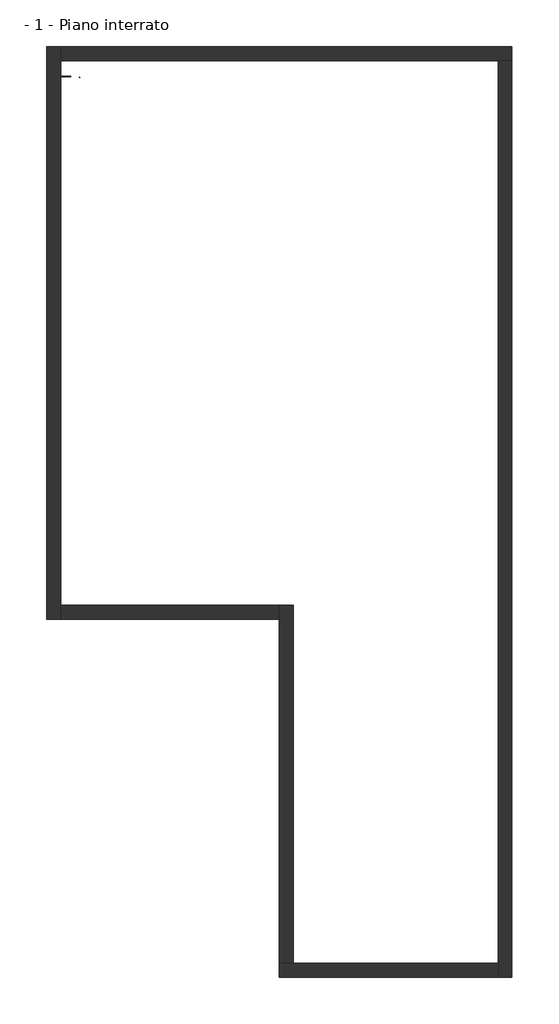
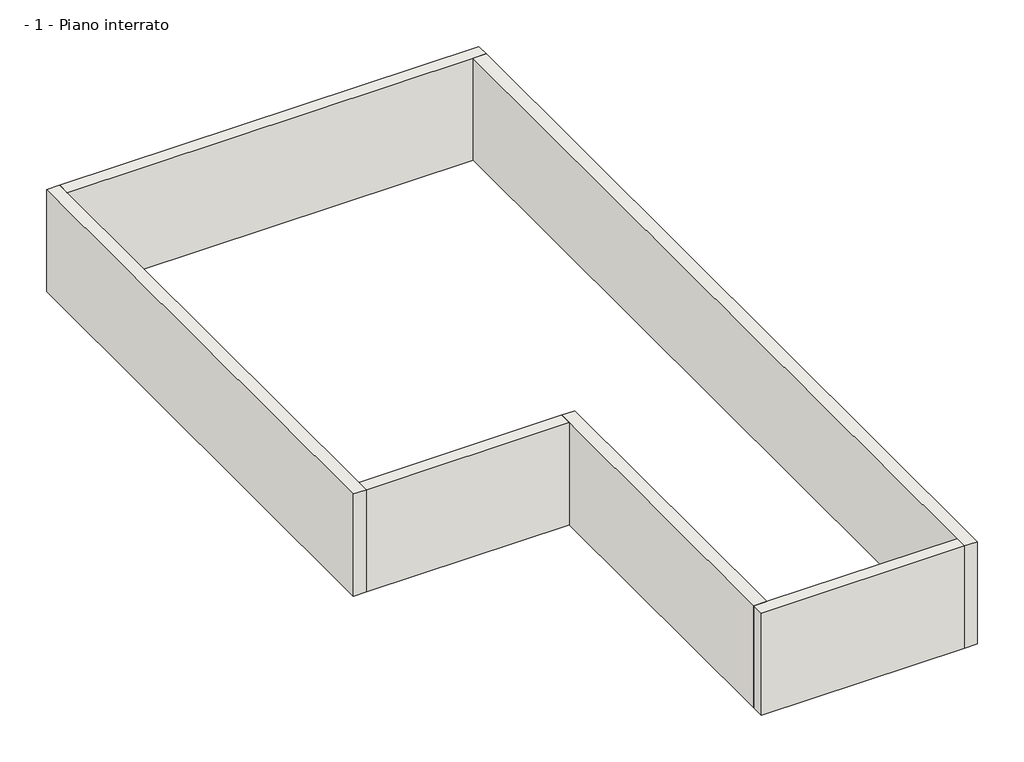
# One storey: 6 walls, 2 proxies.
"""IFC4 building model written with IfcOpenShell, lengths in millimetres."""

from ifc_helpers import new_model, si_unit, origin, place, context, project, spatial, faceted_brep, transform, mapped, element, save
from components import generic_models_3b7ed561

model = new_model("IFC4")

# Units and contexts
model_context = context("Model", 3, world=origin())
ifc_project = project(units=[si_unit("LENGTHUNIT", "METRE", prefix="MILLI")], contexts=[model_context])

# Site, building, storey
site = spatial("IfcSite", under=ifc_project)
building = spatial("IfcBuilding", under=site)
storey = spatial("IfcBuildingStorey", under=building, Name="- 1 - Piano interrato", Elevation=-2500.0)

# Proxies
placement = place(None, origin())
generic_models_shape = generic_models_3b7ed561(model_context)
element("IfcBuildingElementProxy", 1, Name="ITA-Connettori su parete verticale sigillati con AKTI-VO 201 : ITA-Connettori su parete verticale sigillati con AKTI-VO 201", ObjectType="ITA-Connettori su parete verticale sigillati con AKTI-VO 201 : ITA-Connettori su parete verticale sigillati con AKTI-VO 201", at=placement, inside=storey, context=model_context, shape_type="MappedRepresentation", body=[
    mapped(generic_models_shape, transform((-9710.8494157, 5194.5353636, -1865.9567183), x_axis=(0.0, 1.0, 0.0), y_axis=(0.0, 0.0, 1.0), z_axis=(1.0, 0.0, 0.0))),
])
element("IfcBuildingElementProxy", 2, Name="ITA-Connettori su struttura orizzontale sigillati con AKTI-VO 201 : ITA-Connettori su struttura orizzontale sigillati con AKTI-VO 201", ObjectType="ITA-Connettori su struttura orizzontale sigillati con AKTI-VO 201 : ITA-Connettori su struttura orizzontale sigillati con AKTI-VO 201", at=placement, inside=storey, context=model_context, shape_type="MappedRepresentation", body=[
    mapped(generic_models_shape, transform((-9320.8494157, 5174.5353636, -2001.0), x_axis=(1.0, 0.0, 0.0), y_axis=(0.0, 1.0, 0.0), z_axis=(0.0, 0.0, 1.0))),
])

# Walls
element("IfcWall", 3, ObjectType="Parete in muratura fuori terra", at=placement, inside=storey, context=model_context, shape_type="Brep", body=[
    faceted_brep([(-9730.8494157, -6465.4646364, -2500.0), (-9730.8494157, -6165.4646364, -2500.0), (-9730.8494157, 5534.5353636, -2500.0), (-9730.8494157, 5834.5353636, -2500.0), (-9730.8494157, 5834.5353636, 0.0), (-9730.8494157, 5534.5353636, 0.0), (-9730.8494157, -6165.4646364, 0.0), (-9730.8494157, -6465.4646364, 0.0), (-10030.8494157, -6465.4646364, -2500.0), (-10030.8494157, -6465.4646364, 0.0), (-10030.8494157, 5834.5353636, 0.0), (-10030.8494157, 5834.5353636, -2500.0)], [[[0, 1, 2, 3, 4, 5, 6, 7]], [[8, 9, 10, 11]], [[3, 2, 1, 0, 8, 11]], [[7, 6, 5, 4, 10, 9]], [[4, 3, 11, 10]], [[0, 7, 9, 8]]]),
])
element("IfcWall", 4, ObjectType="Parete in muratura fuori terra", at=placement, inside=storey, context=model_context, shape_type="Brep", body=[
    faceted_brep([(-9730.8494157, 5534.5353636, 0.0), (-9730.8494157, 5534.5353636, -2001.0), (-9730.8494157, 5534.5353636, -2500.0), (-330.8494157, 5534.5353636, -2500.0), (-30.8494157, 5534.5353636, -2500.0), (-30.8494157, 5534.5353636, 0.0), (-330.8494157, 5534.5353636, 0.0), (-9720.8494157, 5534.5353636, 0.0), (-9730.8494157, 5834.5353636, -2500.0), (-9730.8494157, 5834.5353636, 0.0), (-30.8494157, 5834.5353636, 0.0), (-30.8494157, 5834.5353636, -2500.0)], [[[0, 1, 2, 3, 4, 5, 6, 7]], [[8, 9, 10, 11]], [[4, 3, 2, 8, 11]], [[0, 7, 6, 5, 10, 9]], [[5, 4, 11, 10]], [[0, 9, 8, 2, 1]]]),
])
element("IfcWall", 5, ObjectType="Parete in muratura fuori terra", at=placement, inside=storey, context=model_context, shape_type="Brep", body=[
    faceted_brep([(-330.8494157, 5534.5353636, -2500.0), (-330.8494157, -13865.4646364, -2500.0), (-330.8494157, -14165.4646364, -2500.0), (-330.8494157, -14165.4646364, 0.0), (-330.8494157, -13865.4646364, 0.0), (-330.8494157, 5524.5353636, 0.0), (-330.8494157, 5534.5353636, 0.0), (-330.8494157, 5534.5353636, -2001.0), (-30.8494157, 5534.5353636, -2500.0), (-30.8494157, 5534.5353636, 0.0), (-30.8494157, -14165.4646364, 0.0), (-30.8494157, -14165.4646364, -2500.0)], [[[0, 1, 2, 3, 4, 5, 6, 7]], [[8, 9, 10, 11]], [[2, 1, 0, 8, 11]], [[6, 5, 4, 3, 10, 9]], [[0, 7, 6, 9, 8]], [[3, 2, 11, 10]]]),
])
element("IfcWall", 6, ObjectType="Parete in muratura fuori terra", at=placement, inside=storey, context=model_context, shape_type="Brep", body=[
    faceted_brep([(-330.8494157, -13865.4646364, -2500.0), (-4730.8494157, -13865.4646364, -2500.0), (-5030.8494157, -13865.4646364, -2500.0), (-5030.8494157, -13865.4646364, 0.0), (-4730.8494157, -13865.4646364, 0.0), (-340.8494157, -13865.4646364, 0.0), (-330.8494157, -13865.4646364, 0.0), (-330.8494157, -13865.4646364, -2001.0), (-330.8494157, -14165.4646364, -2500.0), (-330.8494157, -14165.4646364, 0.0), (-5030.8494157, -14165.4646364, 0.0), (-5030.8494157, -14165.4646364, -2500.0)], [[[0, 1, 2, 3, 4, 5, 6, 7]], [[8, 9, 10, 11]], [[2, 1, 0, 8, 11]], [[6, 5, 4, 3, 10, 9]], [[0, 7, 6, 9, 8]], [[3, 2, 11, 10]]]),
])
element("IfcWall", 7, ObjectType="Parete in muratura fuori terra", at=placement, inside=storey, context=model_context, shape_type="Brep", body=[
    faceted_brep([(-4730.8494157, -13865.4646364, -2500.0), (-4730.8494157, -6165.4646364, -2500.0), (-4730.8494157, -6165.4646364, 0.0), (-4730.8494157, -13855.4646364, 0.0), (-4730.8494157, -13865.4646364, 0.0), (-4730.8494157, -13865.4646364, -2001.0), (-5030.8494157, -6165.4646364, -2500.0), (-5030.8494157, -6465.4646364, -2500.0), (-5030.8494157, -13865.4646364, -2500.0), (-5030.8494157, -13865.4646364, 0.0), (-5030.8494157, -6465.4646364, 0.0), (-5030.8494157, -6165.4646364, 0.0)], [[[0, 1, 2, 3, 4, 5]], [[6, 7, 8, 9, 10, 11]], [[1, 0, 8, 7, 6]], [[4, 3, 2, 11, 10, 9]], [[0, 5, 4, 9, 8]], [[2, 1, 6, 11]]]),
])
element("IfcWall", 8, ObjectType="Parete in muratura fuori terra", at=placement, inside=storey, context=model_context, shape_type="Brep", body=[
    faceted_brep([(-9730.8494157, -6465.4646364, -2500.0), (-5030.8494157, -6465.4646364, -2500.0), (-5030.8494157, -6465.4646364, 0.0), (-9730.8494157, -6465.4646364, 0.0), (-5030.8494157, -6165.4646364, -2500.0), (-9730.8494157, -6165.4646364, -2500.0), (-9730.8494157, -6165.4646364, -2001.0), (-9730.8494157, -6165.4646364, 0.0), (-9720.8494157, -6165.4646364, 0.0), (-5030.8494157, -6165.4646364, 0.0)], [[[0, 1, 2, 3]], [[4, 5, 6, 7, 8, 9]], [[1, 0, 5, 4]], [[3, 2, 9, 8, 7]], [[2, 1, 4, 9]], [[3, 7, 6, 5, 0]]]),
])

save(model, "model.ifc")
